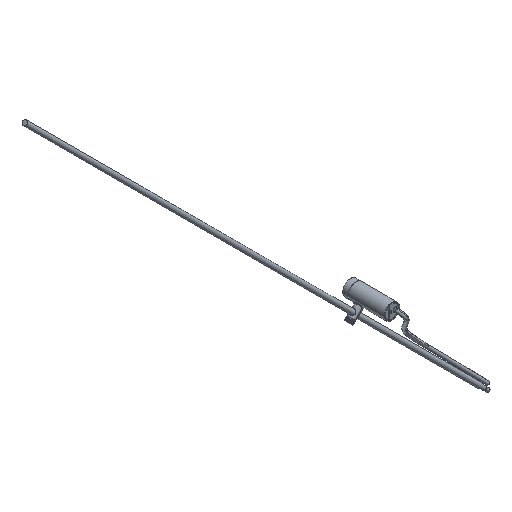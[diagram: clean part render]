
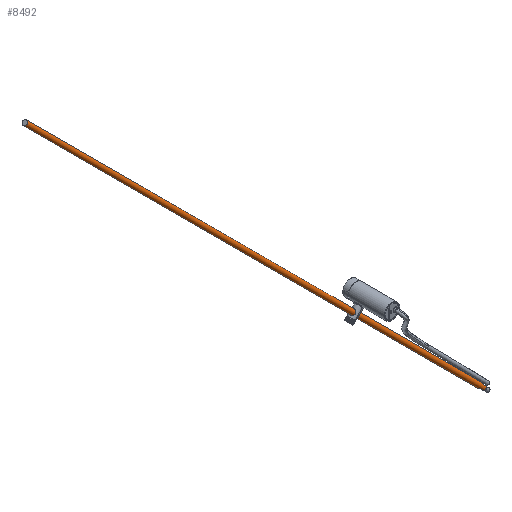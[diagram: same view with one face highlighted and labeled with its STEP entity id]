
A CAD part, isometric view. The second image highlights one B-rep face of the part: STEP entity #8492.
In plain terms, the highlighted cylindrical face has radius 4 mm (diameter 8 mm), a partial arc.
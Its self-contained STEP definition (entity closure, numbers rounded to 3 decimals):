
#8236=CARTESIAN_POINT('',(180.703,-10.741,
-214.291));
#8237=DIRECTION('',(-0.705,0.071,0.705));
#8238=DIRECTION('',(-0.563,-0.66,-0.497));
#8239=AXIS2_PLACEMENT_3D('',#8236,#8237,#8238);
#8273=DIRECTION('',(-0.705,0.071,0.705));
#8274=VECTOR('',#8273,982.);
#8275=CARTESIAN_POINT('',(176.478,-10.036,
-204.409));
#8276=LINE('',#8275,#8274);
#8298=CARTESIAN_POINT('',(173.65,-10.036,
-207.238));
#8299=DIRECTION('',(-0.705,0.071,0.705));
#8300=DIRECTION('',(-0.707,0.,-0.707));
#8301=AXIS2_PLACEMENT_3D('',#8298,#8299,#8300);
#8303=DIRECTION('',(-0.705,0.071,0.705));
#8304=VECTOR('',#8303,982.);
#8305=CARTESIAN_POINT('',(170.822,-10.036,
-210.066));
#8306=LINE('',#8305,#8304);
#8307=CARTESIAN_POINT('',(173.65,-10.036,
-207.238));
#8308=DIRECTION('',(-0.705,0.071,0.705));
#8309=DIRECTION('',(0.497,-0.66,0.563));
#8310=AXIS2_PLACEMENT_3D('',#8307,#8308,#8309);
#8312=DIRECTION('',(0.705,-0.071,-0.705));
#8313=VECTOR('',#8312,10.);
#8314=CARTESIAN_POINT('',(175.639,-12.675,
-204.984));
#8315=LINE('',#8314,#8313);
#8316=DIRECTION('',(-0.705,0.071,0.705));
#8317=VECTOR('',#8316,10.);
#8318=CARTESIAN_POINT('',(178.45,-13.38,
-216.28));
#8319=LINE('',#8318,#8317);
#8325=CARTESIAN_POINT('',(-519.001,59.199,485.413));
#8326=DIRECTION('',(-0.705,0.071,0.705));
#8327=DIRECTION('',(-0.707,0.,-0.707));
#8328=AXIS2_PLACEMENT_3D('',#8325,#8326,#8327);
#8348=CARTESIAN_POINT('',(-516.173,59.199,488.242));
#8349=CARTESIAN_POINT('',(-521.829,59.199,482.585));
#8350=VERTEX_POINT('',#8348);
#8351=VERTEX_POINT('',#8349);
#8360=CARTESIAN_POINT('',(178.45,-13.38,
-216.28));
#8361=VERTEX_POINT('',#8360);
#8364=CARTESIAN_POINT('',(182.693,-13.38,
-212.038));
#8365=VERTEX_POINT('',#8364);
#8368=CARTESIAN_POINT('',(176.478,-10.036,
-204.409));
#8370=VERTEX_POINT('',#8368);
#8373=CARTESIAN_POINT('',(170.822,-10.036,
-210.066));
#8375=VERTEX_POINT('',#8373);
#8376=CARTESIAN_POINT('',(171.397,-12.675,
-209.227));
#8377=VERTEX_POINT('',#8376);
#8378=CARTESIAN_POINT('',(175.639,-12.675,
-204.984));
#8379=VERTEX_POINT('',#8378);
#8475=CARTESIAN_POINT('',(180.703,-10.741,
-214.291));
#8476=DIRECTION('',(-0.705,0.071,0.705));
#8477=DIRECTION('',(0.707,0.,0.707));
#8478=AXIS2_PLACEMENT_3D('',#8475,#8476,#8477);
#8479=CYLINDRICAL_SURFACE('',#8478,4.);
#8480=ORIENTED_EDGE('',*,*,#8469,.F.);
#8481=ORIENTED_EDGE('',*,*,#8439,.T.);
#8483=ORIENTED_EDGE('',*,*,#8482,.T.);
#8484=ORIENTED_EDGE('',*,*,#8435,.F.);
#8485=ORIENTED_EDGE('',*,*,#8458,.F.);
#8487=ORIENTED_EDGE('',*,*,#8486,.T.);
#8488=ORIENTED_EDGE('',*,*,#8387,.F.);
#8489=ORIENTED_EDGE('',*,*,#8423,.T.);
#8490=EDGE_LOOP('',(#8480,#8481,#8483,#8484,#8485,#8487,#8488,#8489));
#8491=FACE_OUTER_BOUND('',#8490,.F.);
#8492=ADVANCED_FACE('',(#8491),#8479,.T.);
#8240=CIRCLE('',#8239,4.);
#8302=CIRCLE('',#8301,4.);
#8311=CIRCLE('',#8310,4.);
#8329=CIRCLE('',#8328,4.);
#8387=EDGE_CURVE('',#8361,#8365,#8240,.T.);
#8423=EDGE_CURVE('',#8361,#8377,#8319,.T.);
#8435=EDGE_CURVE('',#8370,#8350,#8276,.T.);
#8439=EDGE_CURVE('',#8375,#8351,#8306,.T.);
#8458=EDGE_CURVE('',#8379,#8370,#8311,.T.);
#8469=EDGE_CURVE('',#8375,#8377,#8302,.T.);
#8482=EDGE_CURVE('',#8351,#8350,#8329,.T.);
#8486=EDGE_CURVE('',#8379,#8365,#8315,.T.);
